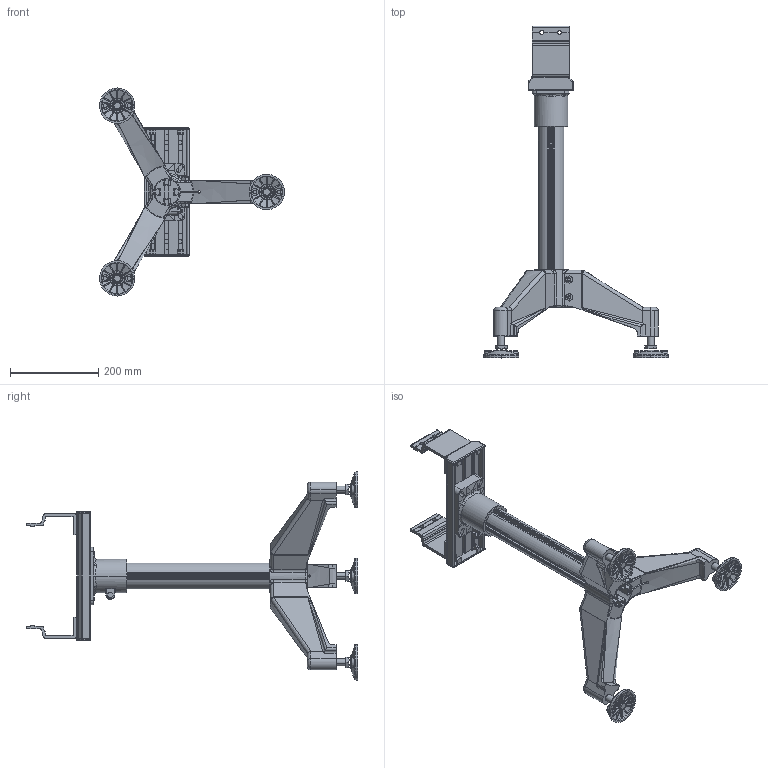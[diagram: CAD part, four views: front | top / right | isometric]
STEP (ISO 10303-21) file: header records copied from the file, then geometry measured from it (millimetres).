
FILE_DESCRIPTION (( 'STEP AP214' ), '1' );
FILE_NAME ('F2-750-P3.STEP', '2010-03-11T09:15:19', ( '.' ), ( '' ), 'SwSTEP 2.0', 'SolidWorks 2009', '' );
FILE_SCHEMA (( 'AUTOMOTIVE_DESIGN' ));
Length unit declared in the file: millimetre
Products named in the file (1): F2-750-P3
Bounding box: 418.25 x 750.06 x 470.58 mm (x, y, z)
Surface area: 766817.2 mm2 (no closed solid volume)
Topology: 0 solids, 17 shells, 1165 faces, 3784 edges, 2487 vertices
Faces by surface type: plane 467, cylinder 319, bspline 122, cone 121, torus 95, sphere 41
Entity records: 76345 total; most frequent: CARTESIAN_POINT 32404, ORIENTED_EDGE 6490, DIRECTION 6127, EDGE_CURVE 3773, VERTEX_POINT 2487, AXIS2_PLACEMENT_3D 2307, VECTOR 1513, LINE 1513
